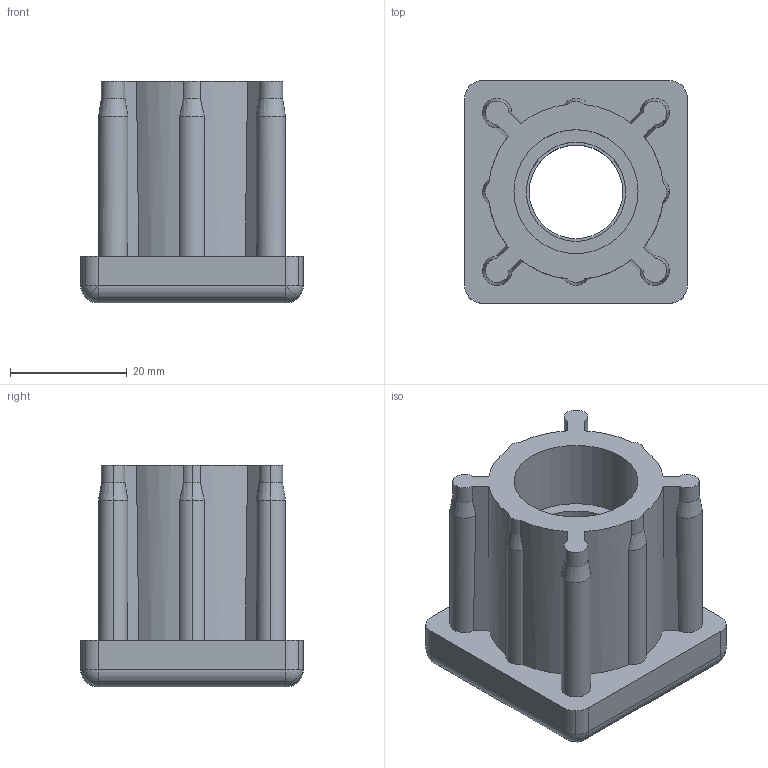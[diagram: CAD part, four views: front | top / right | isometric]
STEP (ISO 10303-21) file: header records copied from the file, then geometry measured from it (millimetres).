
FILE_DESCRIPTION (( 'STEP AP214' ), '1' );
FILE_NAME ('42006845316.STEP', '2020-02-26T11:23:18', ( '' ), ( '' ), 'SwSTEP 2.0', 'SolidWorks 2018', '' );
FILE_SCHEMA (( 'AUTOMOTIVE_DESIGN' ));
Length unit declared in the file: millimetre
Products named in the file (4): 42006845316; BC_M16.stp; Component1.stp; 42006845316.stp
Assembly tree (3 placements, depth 3):
  42006845316
    42006845316.stp
      Component1.stp
      BC_M16.stp
Bounding box: 38.1 x 38.1 x 38 mm (x, y, z)
Volume: 25933.6 mm3; surface area: 11919.4 mm2
Topology: 2 solids, 2 shells, 129 faces, 312 edges, 190 vertices
Faces by surface type: cylinder 70, cone 26, plane 19, sphere 8, torus 6
Entity records: 3974 total; most frequent: CARTESIAN_POINT 746, DIRECTION 724, ORIENTED_EDGE 624, EDGE_CURVE 312, AXIS2_PLACEMENT_3D 308, VERTEX_POINT 190, CIRCLE 172, EDGE_LOOP 136
